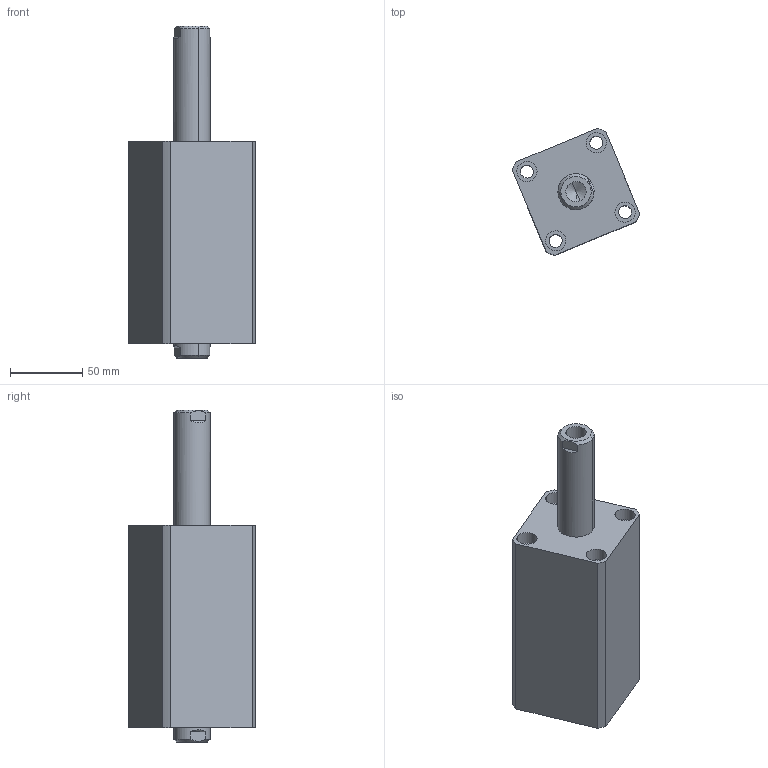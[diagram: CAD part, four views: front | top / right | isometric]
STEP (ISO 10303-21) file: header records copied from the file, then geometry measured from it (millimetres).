
FILE_DESCRIPTION (( 'STEP AP214' ), '1' );
FILE_NAME ('chtb-sw40x70n_asm.STEP', '2018-06-08T12:07:47', ( 'Windows' ), ( 'Microsoft' ), 'SwSTEP 2.0', 'SolidWorks 2015', '' );
FILE_SCHEMA (( 'AUTOMOTIVE_DESIGN' ));
Length unit declared in the file: millimetre
Products named in the file (4): CHTB-SW40X70NHSG; CHTB-SW40X70NBT; CHTB-SD40QG; chtb-sw40x70n_asm
Assembly tree (3 placements, depth 2):
  chtb-sw40x70n_asm
    CHTB-SD40QG
    CHTB-SW40X70NBT
    CHTB-SW40X70NHSG
Bounding box: 88.11 x 88.11 x 230 mm (x, y, z)
Volume: 616542.8 mm3; surface area: 114636.1 mm2
Topology: 3 solids, 3 shells, 167 faces, 429 edges, 282 vertices
Faces by surface type: cylinder 84, plane 40, cone 17, bspline 14, torus 12
Entity records: 10325 total; most frequent: CARTESIAN_POINT 6131, ORIENTED_EDGE 838, DIRECTION 822, EDGE_CURVE 419, AXIS2_PLACEMENT_3D 348, VERTEX_POINT 282, EDGE_LOOP 207, CIRCLE 189
